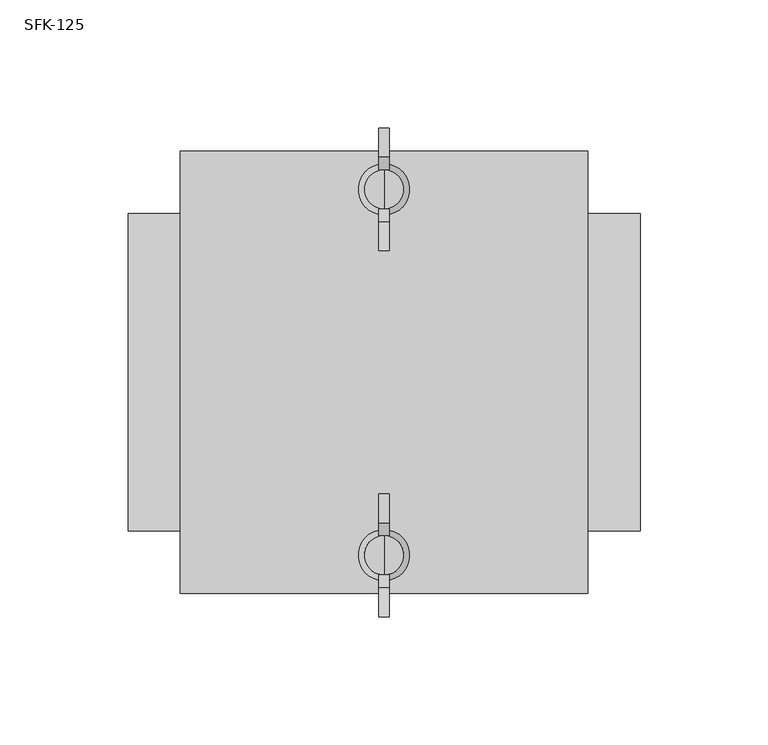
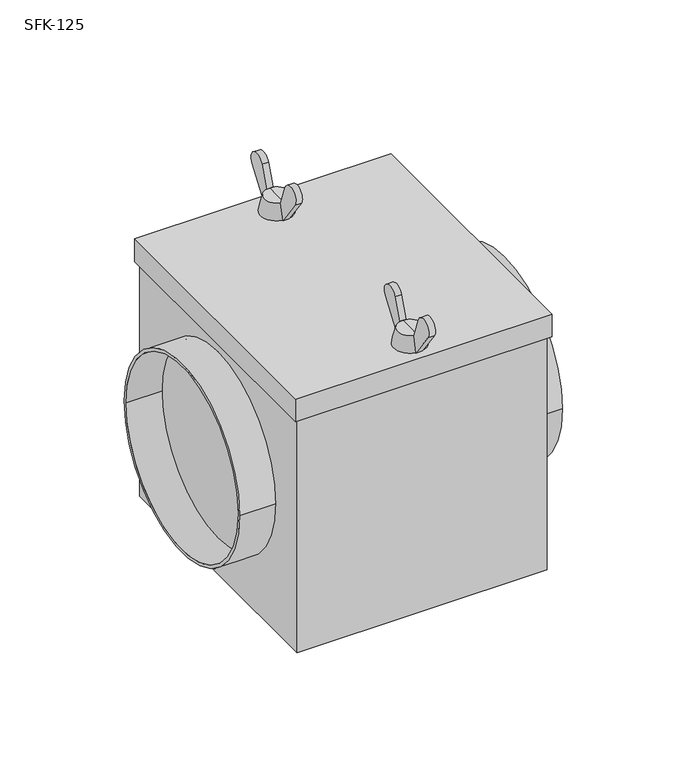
"""IFC4 building model written with IfcOpenShell, lengths in millimetres: damper geometry, СВ_ФильтрКассетный_КанальныйКруглый_DN100-315_SFK : SFK-125."""

from ifc_helpers import new_model, si_unit, point, frame, frame_2d, origin, origin_2d, place, context, project, spatial, polyline, circle_curve, trimmed, segment, composite_curve, outline, extrude, source, transform, mapped, element, save
from ifc_brep_helpers import plane_surface, revolved_surface, advanced_brep


def sfk_125_d15dc6ad(model_context):
    return source(origin(), model_context, "Body", "SolidModel", [
        extrude(outline(composite_curve([segment(polyline([(-48.6098085, 101.7418266), (-61.5, 84.0), (-63.8086819, 94.0), (-58.983336, 107.257529)]), True, "CONTINUOUS"), segment(trimmed(circle_curve(frame_2d((-53.4089815, 105.2286299)), 5.9321041), [point((-58.983336, 107.257529))], [point((-48.6098085, 101.7418266))], False, "CARTESIAN"), True, "CONTINUOUS")], self_intersect=False)), frame((-2.0, 0.0, 0.0), z_axis=(1.0, 0.0, 0.0), x_axis=(0.0, 1.0, 0.0)), (0.0, 0.0, 1.0), 4.0),
        extrude(outline(composite_curve([segment(trimmed(circle_curve(frame_2d((-89.5910185, 105.2286299)), 5.9321041), [point((-94.3901915, 101.7418266))], [point((-84.016664, 107.257529))], False, "CARTESIAN"), True, "CONTINUOUS"), segment(polyline([(-84.016664, 107.257529), (-79.1913181, 94.0), (-81.5, 84.0), (-94.3901915, 101.7418266)]), True, "CONTINUOUS")], self_intersect=False)), frame((-2.0, 0.0, 0.0), z_axis=(1.0, 0.0, 0.0), x_axis=(0.0, 1.0, 0.0)), (0.0, 0.0, 1.0), 4.0),
        advanced_brep(
        [(0.0, -79.1913181, 94.0), (0.0, -63.8086819, 94.0), (0.0, -61.5, 84.0), (0.0, -81.5, 84.0), (0.0, -71.5, 94.0), (0.0, -71.5, 84.0)],
        [
            (0, 1, circle_curve(frame((0.0, -71.5, 94.0), z_axis=(0.0, 0.0, -1.0), x_axis=(0.0, 1.0, 0.0)), 7.6913181)),
            (1, 2),
            (2, 3, circle_curve(frame((0.0, -71.5, 84.0), z_axis=(0.0, 0.0, 1.0), x_axis=(0.0, 1.0, 0.0)), 10.0)),
            (3, 0),
            (1, 0, circle_curve(frame((0.0, -71.5, 94.0), z_axis=(0.0, 0.0, -1.0), x_axis=(0.0, 1.0, 0.0)), 7.6913181)),
            (3, 2, circle_curve(frame((0.0, -71.5, 84.0), z_axis=(0.0, 0.0, 1.0), x_axis=(0.0, 1.0, 0.0)), 10.0)),
            (4, 1),
            (0, 4),
            (2, 5),
            (5, 3),
        ],
        [
            revolved_surface(polyline([(0.0, -61.5, 84.0), (0.0, -63.8086819, 94.0)]), (0.0, -71.5, 84.0), (0.0, 0.0, 1.0)),
            plane_surface(frame((0.0, -71.5, 94.0), z_axis=(0.0, 0.0, 1.0), x_axis=(0.0, 1.0, 0.0))),
            plane_surface(frame((0.0, -71.5, 84.0), z_axis=(0.0, 0.0, -1.0), x_axis=(0.0, 1.0, 0.0))),
        ],
        [
            (0, [[1, 2, 3, 4]]),
            (0, [[5, -4, 6, -2]]),
            (1, [[7, -1, 8]]),
            (1, [[-8, -5, -7]]),
            (2, [[-3, 9, 10]]),
            (2, [[-6, -10, -9]]),
        ],
    ),
        extrude(outline(composite_curve([segment(polyline([(94.3901915, 101.7418266), (81.5, 84.0), (79.1913181, 94.0), (84.016664, 107.257529)]), True, "CONTINUOUS"), segment(trimmed(circle_curve(frame_2d((89.5910185, 105.2286299)), 5.9321041), [point((84.016664, 107.257529))], [point((94.3901915, 101.7418266))], False, "CARTESIAN"), True, "CONTINUOUS")], self_intersect=False)), frame((-2.0, 0.0, 0.0), z_axis=(1.0, 0.0, 0.0), x_axis=(0.0, 1.0, 0.0)), (0.0, 0.0, 1.0), 4.0),
        extrude(outline(composite_curve([segment(trimmed(circle_curve(frame_2d((53.4089815, 105.2286299)), 5.9321041), [point((48.6098085, 101.7418266))], [point((58.983336, 107.257529))], False, "CARTESIAN"), True, "CONTINUOUS"), segment(polyline([(58.983336, 107.257529), (63.8086819, 94.0), (61.5, 84.0), (48.6098085, 101.7418266)]), True, "CONTINUOUS")], self_intersect=False)), frame((-2.0, 0.0, 0.0), z_axis=(1.0, 0.0, 0.0), x_axis=(0.0, 1.0, 0.0)), (0.0, 0.0, 1.0), 4.0),
        advanced_brep(
        [(0.0, 63.8086819, 94.0), (0.0, 79.1913181, 94.0), (0.0, 81.5, 84.0), (0.0, 61.5, 84.0), (0.0, 71.5, 94.0), (0.0, 71.5, 84.0)],
        [
            (0, 1, circle_curve(frame((0.0, 71.5, 94.0), z_axis=(0.0, 0.0, -1.0), x_axis=(0.0, 1.0, 0.0)), 7.6913181)),
            (1, 2),
            (2, 3, circle_curve(frame((0.0, 71.5, 84.0), z_axis=(0.0, 0.0, 1.0), x_axis=(0.0, 1.0, 0.0)), 10.0)),
            (3, 0),
            (1, 0, circle_curve(frame((0.0, 71.5, 94.0), z_axis=(0.0, 0.0, -1.0), x_axis=(0.0, 1.0, 0.0)), 7.6913181)),
            (3, 2, circle_curve(frame((0.0, 71.5, 84.0), z_axis=(0.0, 0.0, 1.0), x_axis=(0.0, 1.0, 0.0)), 10.0)),
            (4, 1),
            (0, 4),
            (2, 5),
            (5, 3),
        ],
        [
            revolved_surface(polyline([(0.0, 81.5, 84.0), (0.0, 79.1913181, 94.0)]), (0.0, 71.5, 84.0), (0.0, 0.0, 1.0)),
            plane_surface(frame((0.0, 71.5, 94.0), z_axis=(0.0, 0.0, 1.0), x_axis=(0.0, 1.0, 0.0))),
            plane_surface(frame((0.0, 71.5, 84.0), z_axis=(0.0, 0.0, -1.0), x_axis=(0.0, 1.0, 0.0))),
        ],
        [
            (0, [[1, 2, 3, 4]]),
            (0, [[5, -4, 6, -2]]),
            (1, [[7, -1, 8]]),
            (1, [[-8, -5, -7]]),
            (2, [[-3, 9, 10]]),
            (2, [[-6, -10, -9]]),
        ],
    ),
        extrude(outline(polyline([(-79.5, 86.5), (79.5, 86.5), (79.5, -86.5), (-79.5, -86.5), (-79.5, 86.5)])), frame((0.0, 0.0, 69.0), z_axis=(0.0, 0.0, 1.0), x_axis=(1.0, 0.0, 0.0)), (0.0, 0.0, 1.0), 15.0),
        extrude(outline(polyline([(77.5, -84.5), (-77.5, -84.5), (-77.5, 84.5), (77.5, 84.5), (77.5, -84.5)])), frame((0.0, 0.0, -84.0), z_axis=(0.0, 0.0, 1.0), x_axis=(1.0, 0.0, 0.0)), (0.0, 0.0, 1.0), 153.0),
        extrude(outline(composite_curve([segment(trimmed(circle_curve(origin_2d(), 62.0), [point((-62.0, 0.0))], [point((62.0, 0.0))], False, "CARTESIAN"), True, "CONTINUOUS"), segment(trimmed(circle_curve(origin_2d(), 62.0), [point((62.0, 0.0))], [point((-62.0, 0.0))], False, "CARTESIAN"), True, "CONTINUOUS")], self_intersect=False), holes=[composite_curve([segment(trimmed(circle_curve(origin_2d(), 60.0), [point((-60.0, 0.0))], [point((60.0, 0.0))], True, "CARTESIAN"), True, "CONTINUOUS"), segment(trimmed(circle_curve(origin_2d(), 60.0), [point((60.0, 0.0))], [point((-60.0, 0.0))], True, "CARTESIAN"), True, "CONTINUOUS")], self_intersect=False)]), frame((-100.0, 0.0, 0.0), z_axis=(1.0, 0.0, 0.0), x_axis=(0.0, 1.0, 0.0)), (0.0, 0.0, 1.0), 22.5),
        extrude(outline(composite_curve([segment(trimmed(circle_curve(origin_2d(), 62.0), [point((-62.0, 0.0))], [point((62.0, 0.0))], False, "CARTESIAN"), True, "CONTINUOUS"), segment(trimmed(circle_curve(origin_2d(), 62.0), [point((62.0, 0.0))], [point((-62.0, 0.0))], False, "CARTESIAN"), True, "CONTINUOUS")], self_intersect=False), holes=[composite_curve([segment(trimmed(circle_curve(origin_2d(), 60.0), [point((-60.0, 0.0))], [point((60.0, 0.0))], True, "CARTESIAN"), True, "CONTINUOUS"), segment(trimmed(circle_curve(origin_2d(), 60.0), [point((60.0, 0.0))], [point((-60.0, 0.0))], True, "CARTESIAN"), True, "CONTINUOUS")], self_intersect=False)]), frame((77.5, 0.0, 0.0), z_axis=(1.0, 0.0, 0.0), x_axis=(0.0, 1.0, 0.0)), (0.0, 0.0, 1.0), 22.5),
    ])


if __name__ == "__main__":
    model = new_model("IFC4")
    model_context = context("Model", 3, world=origin())
    ifc_project = project(units=[si_unit("LENGTHUNIT", "METRE", prefix="MILLI")], contexts=[model_context])
    site = spatial("IfcSite", under=ifc_project)
    building = spatial("IfcBuilding", under=site)
    placement = place(None, origin())
    sfk_125_shape = sfk_125_d15dc6ad(model_context)
    element("IfcDamper", 1, ObjectType="СВ_ФильтрКассетный_КанальныйКруглый_DN100-315_SFK : SFK-125", at=placement, inside=building, context=model_context, shape_type="MappedRepresentation", body=[
        mapped(sfk_125_shape, transform((0.0, 0.0, 0.0), x_axis=(1.0, 0.0, 0.0), y_axis=(0.0, 1.0, 0.0), z_axis=(0.0, 0.0, 1.0))),
    ])
    save(model, "model.ifc")
